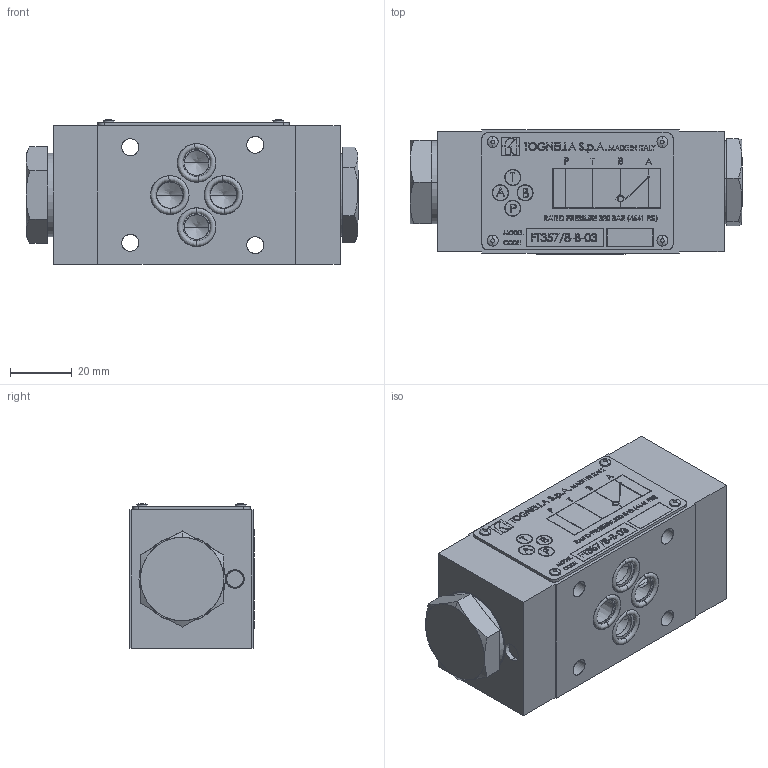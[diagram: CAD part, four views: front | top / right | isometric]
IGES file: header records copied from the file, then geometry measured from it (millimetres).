
Start section: SolidWorks IGES file using analytic representation for surfaces
Global section: file name: C:\Users\user\Desktop\FT357-8-B-03.IGS; native system: SolidWorks 2014; preprocessor: SolidWorks 2014; author: user; date: 140617.081643; units: millimetre
Bounding box: 107.6 x 40.38 x 46.96 mm (x, y, z)
Surface area: 48970.4 mm2 (no closed solid volume)
Topology: 0 solids, 0 shells, 1804 faces, 21643 edges, 21613 vertices
Faces by surface type: bspline 1378, revolution 426
